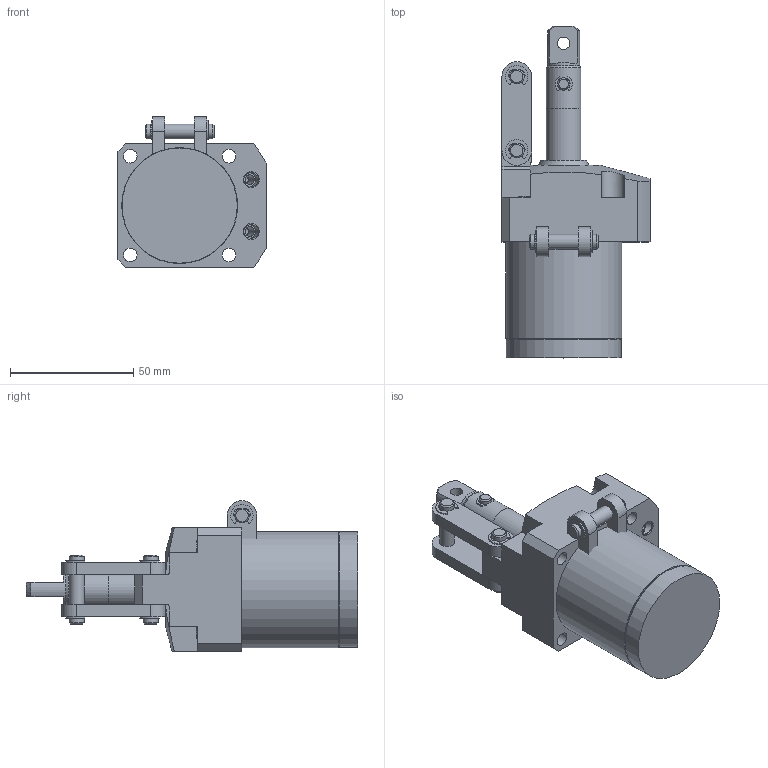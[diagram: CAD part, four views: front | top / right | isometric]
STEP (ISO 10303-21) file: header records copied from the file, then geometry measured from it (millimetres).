
FILE_DESCRIPTION( ( '' ), '1' );
FILE_NAME( 'W:/Catalogue/JL5H/JL5H28-22G/JL5H28-22G.stp', '2008-05-26T01:10:09', ( '機械事業部産業機器グループ' ), ( '豊和工業株式会社' ), 'XStep 1.0', ' ', ' ' );
FILE_SCHEMA( ( 'CONFIG_CONTROL_DESIGN' ) );
Length unit declared in the file: millimetre
Products named in the file (6): Assem1; 1; 2; 3; 4; 5
Bounding box: 60 x 134.5 x 61 mm (x, y, z)
Volume: 316539.7 mm3; surface area: 77448.8 mm2
Topology: 11 solids, 15 shells, 578 faces, 1499 edges, 987 vertices
Faces by surface type: plane 308, cylinder 222, cone 46, torus 2
Full cylindrical faces by diameter (mm): 2 x2, 3 x4, 3.5 x2, 4 x12, 4.5 x2, 5 x8, 5.5 x12, 6 x14, 6.5 x4, 8.3 x4, 13 x2, 14 x4, 16 x2, 20 x2, 24 x4, 28 x4, 46 x2, 46.7 x2, 47 x2
Entity records: 8613 total; most frequent: CARTESIAN_POINT 1622, DIRECTION 1483, ORIENTED_EDGE 1262, EDGE_CURVE 631, AXIS2_PLACEMENT_3D 583, VERTEX_POINT 450, EDGE_LOOP 391, FACE_OUTER_BOUND 326
